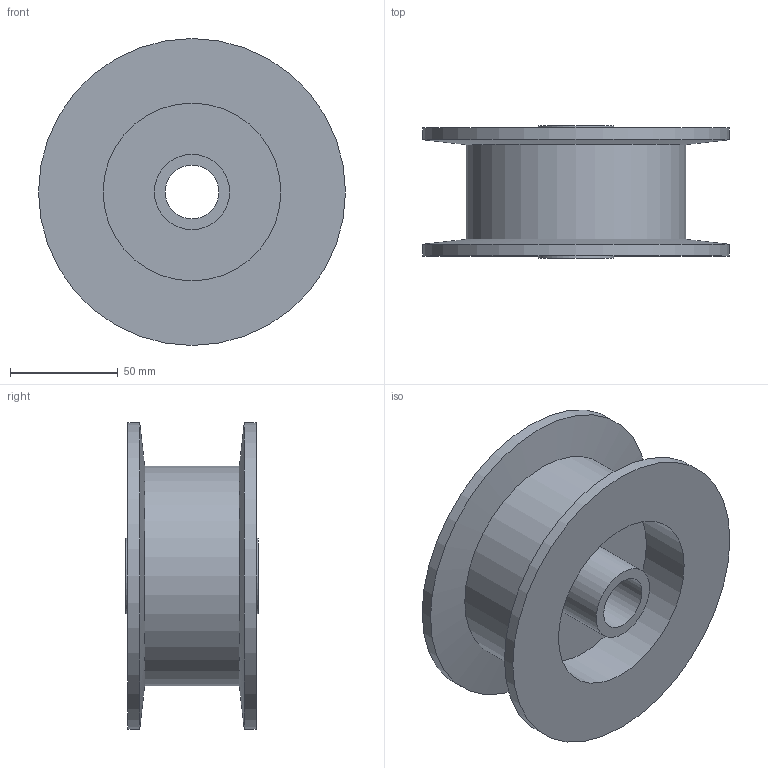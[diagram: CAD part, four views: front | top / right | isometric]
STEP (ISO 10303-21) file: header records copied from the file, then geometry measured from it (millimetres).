
FILE_DESCRIPTION(/* description */ ('ハバジット'),/* implementation_level */ '2;1');
FILE_NAME(/* name */ 'C:\Users\Fujimoto-s\OneDrive\Inventor\WorkSpace\\X2\305D306E4ED6\X0\\ホームページ用\\X2\30C030A630F330ED30FC30C97D206750\X0\\コンベヤ部品\C0820L23 + H025RL\C0820L23 + H025RL.stp',/* time_stamp */ '2024-08-08T15:53:04+09:00',/* author */ ('Fujimoto-s'),/* organization */ (''),/* preprocessor_version */ 'ST-DEVELOPER v15.2',/* originating_system */ 'Autodesk Inventor 2014',/* authorisation */ '');
FILE_SCHEMA (('AUTOMOTIVE_DESIGN { 1 0 10303 214 3 1 1 }'));
Length unit declared in the file: millimetre
Products named in the file (1): C0820L23 + H025RL
Bounding box: 142.5 x 61.5 x 142.5 mm (x, y, z)
Volume: 342820.2 mm3; surface area: 88891.5 mm2
Topology: 1 solids, 1 shells, 16 faces, 26 edges, 16 vertices
Faces by surface type: cylinder 8, plane 6, cone 2
Full cylindrical faces by diameter (mm): 25 x1, 35 x2, 82.5 x2, 102 x1, 142.5 x2
Entity records: 352 total; most frequent: DIRECTION 66, CARTESIAN_POINT 49, AXIS2_PLACEMENT_3D 33, EDGE_LOOP 32, ORIENTED_EDGE 32, FACE_BOUND 19, CIRCLE 16, VERTEX_POINT 16
